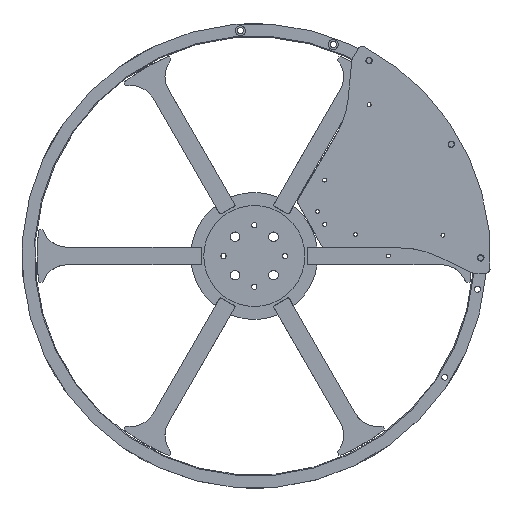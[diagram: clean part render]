
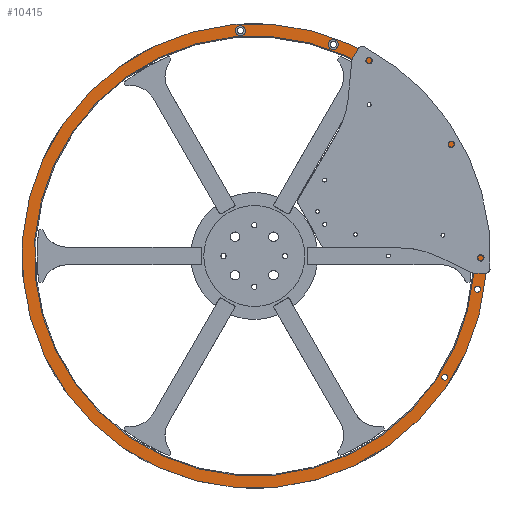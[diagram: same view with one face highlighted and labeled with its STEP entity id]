
A CAD part, top view. The second image highlights one B-rep face of the part: STEP entity #10415.
In plain terms, the highlighted planar face has unit normal (0, 0, 1).
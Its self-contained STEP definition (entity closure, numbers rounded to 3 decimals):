
#66 = DIRECTION ( 'NONE',  ( 0., 0., 1. ) ) ;
#77 = DIRECTION ( 'NONE',  ( 1., 0., 0. ) ) ;
#97 = ORIENTED_EDGE ( 'NONE', *, *, #3210, .T. ) ;
#109 = DIRECTION ( 'NONE',  ( 0., 0., 1. ) ) ;
#343 = EDGE_CURVE ( 'NONE', #11654, #4154, #727, .T. ) ;
#351 = CARTESIAN_POINT ( 'NONE',  ( 0., 0., 28. ) ) ;
#457 = CIRCLE ( 'NONE', #8779, 5.75 ) ;
#520 = CARTESIAN_POINT ( 'NONE',  ( 0., 0., 28. ) ) ;
#585 = AXIS2_PLACEMENT_3D ( 'NONE', #4987, #11664, #3371 ) ;
#606 = FACE_BOUND ( 'NONE', #3585, .T. ) ;
#727 = CIRCLE ( 'NONE', #11024, 265.5 ) ;
#1046 = CIRCLE ( 'NONE', #6198, 5.75 ) ;
#1198 = ORIENTED_EDGE ( 'NONE', *, *, #10147, .F. ) ;
#1262 = EDGE_CURVE ( 'NONE', #7750, #2609, #7672, .T. ) ;
#1737 = FACE_OUTER_BOUND ( 'NONE', #10224, .T. ) ;
#2120 = DIRECTION ( 'NONE',  ( 0., 0., 1. ) ) ;
#2519 = DIRECTION ( 'NONE',  ( 1., 0., 0. ) ) ;
#2583 = CARTESIAN_POINT ( 'NONE',  ( 110.688, -235.695, 28. ) ) ;
#2609 = VERTEX_POINT ( 'NONE', #2689 ) ;
#2629 = AXIS2_PLACEMENT_3D ( 'NONE', #5471, #2798, #10409 ) ;
#2689 = CARTESIAN_POINT ( 'NONE',  ( -255.862, -53.641, 28. ) ) ;
#2795 = DIRECTION ( 'NONE',  ( 1., 0., 0. ) ) ;
#2798 = DIRECTION ( 'NONE',  ( 0., 0., 1. ) ) ;
#2938 = EDGE_CURVE ( 'NONE', #3405, #10738, #5938, .T. ) ;
#3107 = AXIS2_PLACEMENT_3D ( 'NONE', #7967, #11747, #2519 ) ;
#3210 = EDGE_CURVE ( 'NONE', #4154, #11654, #3758, .T. ) ;
#3215 = CIRCLE ( 'NONE', #10525, 3.5 ) ;
#3366 = CARTESIAN_POINT ( 'NONE',  ( 185.981, -172.636, 28. ) ) ;
#3371 = DIRECTION ( 'NONE',  ( 1., 0., 0. ) ) ;
#3405 = VERTEX_POINT ( 'NONE', #8431 ) ;
#3460 = DIRECTION ( 'NONE',  ( 0., 0., 1. ) ) ;
#3498 = DIRECTION ( 'NONE',  ( 1., 0., 0. ) ) ;
#3585 = EDGE_LOOP ( 'NONE', ( #6039, #5255 ) ) ;
#3758 = CIRCLE ( 'NONE', #8719, 265.5 ) ;
#3791 = EDGE_LOOP ( 'NONE', ( #4181, #7404 ) ) ;
#3917 = VERTEX_POINT ( 'NONE', #10533 ) ;
#4143 = DIRECTION ( 'NONE',  ( 0., 0., 1. ) ) ;
#4154 = VERTEX_POINT ( 'NONE', #11591 ) ;
#4170 = DIRECTION ( 'NONE',  ( 1., 0., 0. ) ) ;
#4181 = ORIENTED_EDGE ( 'NONE', *, *, #11846, .T. ) ;
#4665 = DIRECTION ( 'NONE',  ( 0., 0., 1. ) ) ;
#4825 = ORIENTED_EDGE ( 'NONE', *, *, #343, .T. ) ;
#4987 = CARTESIAN_POINT ( 'NONE',  ( -208.726, -151.649, 28. ) ) ;
#5094 = VERTEX_POINT ( 'NONE', #10511 ) ;
#5255 = ORIENTED_EDGE ( 'NONE', *, *, #11461, .F. ) ;
#5466 = EDGE_LOOP ( 'NONE', ( #7905, #12120 ) ) ;
#5471 = CARTESIAN_POINT ( 'NONE',  ( 191.731, -172.636, 28. ) ) ;
#5559 = EDGE_LOOP ( 'NONE', ( #7845, #11561 ) ) ;
#5644 = EDGE_CURVE ( 'NONE', #3917, #8898, #7344, .T. ) ;
#5855 = CIRCLE ( 'NONE', #8429, 3.5 ) ;
#5890 = DIRECTION ( 'NONE',  ( 1., 0., 0. ) ) ;
#5938 = CIRCLE ( 'NONE', #585, 3.5 ) ;
#5954 = CARTESIAN_POINT ( 'NONE',  ( -252.362, -53.641, 28. ) ) ;
#6039 = ORIENTED_EDGE ( 'NONE', *, *, #1262, .F. ) ;
#6198 = AXIS2_PLACEMENT_3D ( 'NONE', #7487, #4665, #2795 ) ;
#6429 = PLANE ( 'NONE',  #8378 ) ;
#6686 = VERTEX_POINT ( 'NONE', #3366 ) ;
#6864 = DIRECTION ( 'NONE',  ( 0., 0., 1. ) ) ;
#7021 = VERTEX_POINT ( 'NONE', #11080 ) ;
#7278 = DIRECTION ( 'NONE',  ( 1., 0., 0. ) ) ;
#7341 = FACE_BOUND ( 'NONE', #3791, .T. ) ;
#7344 = CIRCLE ( 'NONE', #9735, 251.5 ) ;
#7404 = ORIENTED_EDGE ( 'NONE', *, *, #5644, .T. ) ;
#7487 = CARTESIAN_POINT ( 'NONE',  ( 104.938, -235.695, 28. ) ) ;
#7672 = CIRCLE ( 'NONE', #8883, 3.5 ) ;
#7750 = VERTEX_POINT ( 'NONE', #8294 ) ;
#7845 = ORIENTED_EDGE ( 'NONE', *, *, #2938, .F. ) ;
#7884 = ORIENTED_EDGE ( 'NONE', *, *, #10275, .F. ) ;
#7902 = DIRECTION ( 'NONE',  ( 1., 0., 0. ) ) ;
#7905 = ORIENTED_EDGE ( 'NONE', *, *, #8904, .F. ) ;
#7967 = CARTESIAN_POINT ( 'NONE',  ( 0., 0., 28. ) ) ;
#7983 = CIRCLE ( 'NONE', #9576, 5.75 ) ;
#8129 = DIRECTION ( 'NONE',  ( 1., 0., 0. ) ) ;
#8163 = FACE_BOUND ( 'NONE', #5559, .T. ) ;
#8207 = DIRECTION ( 'NONE',  ( 0., 0., -1. ) ) ;
#8294 = CARTESIAN_POINT ( 'NONE',  ( -248.862, -53.641, 28. ) ) ;
#8347 = CARTESIAN_POINT ( 'NONE',  ( 0., 0., 28. ) ) ;
#8378 = AXIS2_PLACEMENT_3D ( 'NONE', #8347, #3460, #7278 ) ;
#8429 = AXIS2_PLACEMENT_3D ( 'NONE', #5954, #66, #5890 ) ;
#8431 = CARTESIAN_POINT ( 'NONE',  ( -205.226, -151.649, 28. ) ) ;
#8515 = VERTEX_POINT ( 'NONE', #2583 ) ;
#8542 = DIRECTION ( 'NONE',  ( 1., 0., 0. ) ) ;
#8719 = AXIS2_PLACEMENT_3D ( 'NONE', #11588, #6864, #4170 ) ;
#8779 = AXIS2_PLACEMENT_3D ( 'NONE', #9742, #2120, #77 ) ;
#8826 = EDGE_CURVE ( 'NONE', #10738, #3405, #3215, .T. ) ;
#8883 = AXIS2_PLACEMENT_3D ( 'NONE', #11315, #109, #8542 ) ;
#8898 = VERTEX_POINT ( 'NONE', #11279 ) ;
#8904 = EDGE_CURVE ( 'NONE', #8515, #7021, #1046, .T. ) ;
#9131 = DIRECTION ( 'NONE',  ( 0., 0., 1. ) ) ;
#9225 = DIRECTION ( 'NONE',  ( 0., 0., 1. ) ) ;
#9576 = AXIS2_PLACEMENT_3D ( 'NONE', #10197, #9225, #12111 ) ;
#9735 = AXIS2_PLACEMENT_3D ( 'NONE', #520, #8207, #3498 ) ;
#9742 = CARTESIAN_POINT ( 'NONE',  ( 191.731, -172.636, 28. ) ) ;
#9750 = EDGE_CURVE ( 'NONE', #7021, #8515, #7983, .T. ) ;
#9922 = CARTESIAN_POINT ( 'NONE',  ( -208.726, -151.649, 28. ) ) ;
#10019 = FACE_BOUND ( 'NONE', #5466, .T. ) ;
#10105 = CARTESIAN_POINT ( 'NONE',  ( -212.226, -151.649, 28. ) ) ;
#10147 = EDGE_CURVE ( 'NONE', #6686, #5094, #10934, .T. ) ;
#10197 = CARTESIAN_POINT ( 'NONE',  ( 104.938, -235.695, 28. ) ) ;
#10224 = EDGE_LOOP ( 'NONE', ( #97, #4825 ) ) ;
#10275 = EDGE_CURVE ( 'NONE', #5094, #6686, #457, .T. ) ;
#10409 = DIRECTION ( 'NONE',  ( 1., 0., 0. ) ) ;
#10415 = ADVANCED_FACE ( 'NONE', ( #10019, #12114, #8163, #606, #7341, #1737 ), #6429, .T. ) ;
#10511 = CARTESIAN_POINT ( 'NONE',  ( 197.481, -172.636, 28. ) ) ;
#10525 = AXIS2_PLACEMENT_3D ( 'NONE', #9922, #9131, #8129 ) ;
#10533 = CARTESIAN_POINT ( 'NONE',  ( -251.5, 0., 28. ) ) ;
#10602 = CIRCLE ( 'NONE', #3107, 251.5 ) ;
#10738 = VERTEX_POINT ( 'NONE', #10105 ) ;
#10872 = EDGE_LOOP ( 'NONE', ( #7884, #1198 ) ) ;
#10934 = CIRCLE ( 'NONE', #2629, 5.75 ) ;
#11024 = AXIS2_PLACEMENT_3D ( 'NONE', #351, #4143, #7902 ) ;
#11080 = CARTESIAN_POINT ( 'NONE',  ( 99.188, -235.695, 28. ) ) ;
#11279 = CARTESIAN_POINT ( 'NONE',  ( 251.5, 0., 28. ) ) ;
#11315 = CARTESIAN_POINT ( 'NONE',  ( -252.362, -53.641, 28. ) ) ;
#11461 = EDGE_CURVE ( 'NONE', #2609, #7750, #5855, .T. ) ;
#11561 = ORIENTED_EDGE ( 'NONE', *, *, #8826, .F. ) ;
#11588 = CARTESIAN_POINT ( 'NONE',  ( 0., 0., 28. ) ) ;
#11591 = CARTESIAN_POINT ( 'NONE',  ( -265.5, 0., 28. ) ) ;
#11654 = VERTEX_POINT ( 'NONE', #12063 ) ;
#11664 = DIRECTION ( 'NONE',  ( 0., 0., 1. ) ) ;
#11747 = DIRECTION ( 'NONE',  ( 0., 0., -1. ) ) ;
#11846 = EDGE_CURVE ( 'NONE', #8898, #3917, #10602, .T. ) ;
#12063 = CARTESIAN_POINT ( 'NONE',  ( 265.5, 0., 28. ) ) ;
#12111 = DIRECTION ( 'NONE',  ( 1., 0., 0. ) ) ;
#12114 = FACE_BOUND ( 'NONE', #10872, .T. ) ;
#12120 = ORIENTED_EDGE ( 'NONE', *, *, #9750, .F. ) ;
